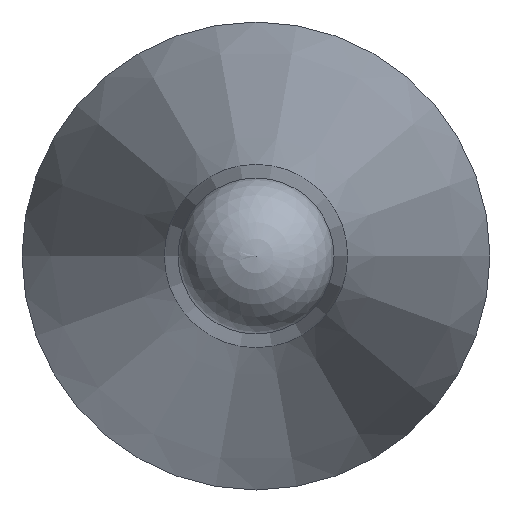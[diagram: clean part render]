
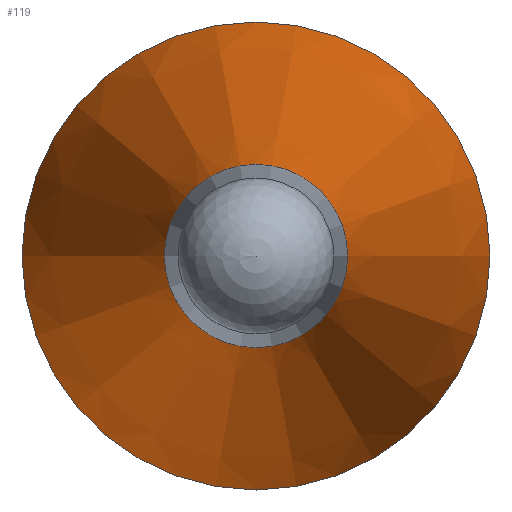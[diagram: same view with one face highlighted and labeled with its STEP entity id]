
A CAD part, left-side view. The second image highlights one B-rep face of the part: STEP entity #119.
In plain terms, the highlighted conical face has half-angle 12 degrees and reference radius 3 mm.
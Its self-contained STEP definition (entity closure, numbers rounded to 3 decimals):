
#97=CONICAL_SURFACE('',#194,3.,12.);
#106=FACE_BOUND('',#134,.T.);
#107=FACE_BOUND('',#135,.T.);
#119=ADVANCED_FACE('',(#106,#107),#97,.T.);
#134=EDGE_LOOP('',(#150));
#135=EDGE_LOOP('',(#151));
#150=ORIENTED_EDGE('',*,*,#172,.F.);
#151=ORIENTED_EDGE('',*,*,#173,.T.);
#164=VERTEX_POINT('',#249);
#165=VERTEX_POINT('',#252);
#172=EDGE_CURVE('',#164,#164,#180,.T.);
#173=EDGE_CURVE('',#165,#165,#181,.T.);
#180=CIRCLE('',#191,1.175);
#181=CIRCLE('',#193,3.);
#191=AXIS2_PLACEMENT_3D('',#248,#215,#216);
#193=AXIS2_PLACEMENT_3D('',#251,#219,#220);
#194=AXIS2_PLACEMENT_3D('',#253,#221,#222);
#215=DIRECTION('',(-1.,0.,0.));
#216=DIRECTION('',(0.,-1.,0.));
#219=DIRECTION('',(-1.,0.,0.));
#220=DIRECTION('',(0.,-1.,0.));
#221=DIRECTION('',(1.,0.,0.));
#222=DIRECTION('',(0.,1.,0.));
#248=CARTESIAN_POINT('',(7909.912,6103.288,0.));
#249=CARTESIAN_POINT('',(7909.912,6102.114,0.));
#251=CARTESIAN_POINT('',(7918.499,6103.288,0.));
#252=CARTESIAN_POINT('',(7918.499,6100.288,0.));
#253=CARTESIAN_POINT('',(7918.499,6103.288,0.));
